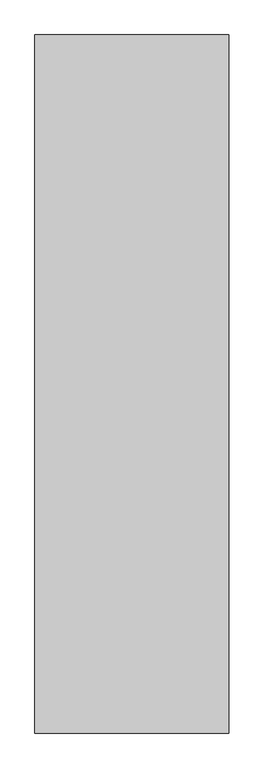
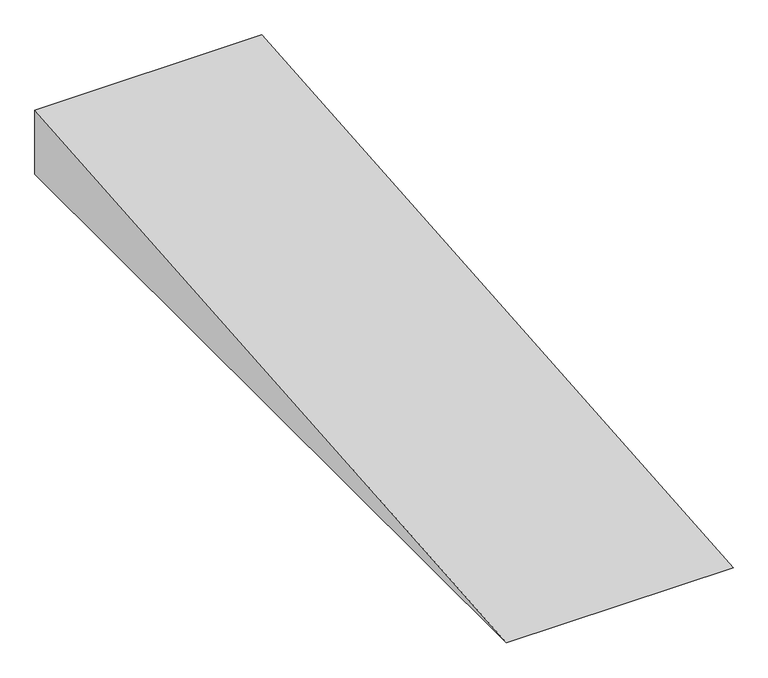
"""IFC4 building model written with IfcOpenShell, lengths in millimetres: ramp geometry, 教学楼坡道 – 1/12."""

from ifc_helpers import new_model, si_unit, frame, origin, place, context, project, spatial, polyline, outline, extrude, source, transform, mapped, element, save


def ramp_69e4c4a1(model_context):
    return source(origin(), model_context, "Body", "SweptSolid", [
        extrude(outline(polyline([(6600.0, -450.0), (12000.0, 0.0), (12000.0, -450.0), (6600.0, -450.0)])), frame((750.0, 0.0, 0.0), z_axis=(1.0, 0.0, 0.0), x_axis=(0.0, 1.0, 0.0)), (0.0, 0.0, 1.0), 1500.0),
    ])


if __name__ == "__main__":
    model = new_model("IFC4")
    model_context = context("Model", 3, world=origin())
    ifc_project = project(units=[si_unit("LENGTHUNIT", "METRE", prefix="MILLI")], contexts=[model_context])
    site = spatial("IfcSite", under=ifc_project)
    building = spatial("IfcBuilding", under=site)
    placement = place(None, origin())
    ramp_shape = ramp_69e4c4a1(model_context)
    element("IfcRamp", 1, ObjectType="教学楼坡道 – 1/12", at=placement, inside=building, context=model_context, shape_type="MappedRepresentation", body=[
        mapped(ramp_shape, transform((0.0, 0.0, 0.0), x_axis=(1.0, 0.0, 0.0), y_axis=(0.0, 1.0, 0.0), z_axis=(0.0, 0.0, 1.0))),
    ])
    save(model, "model.ifc")
